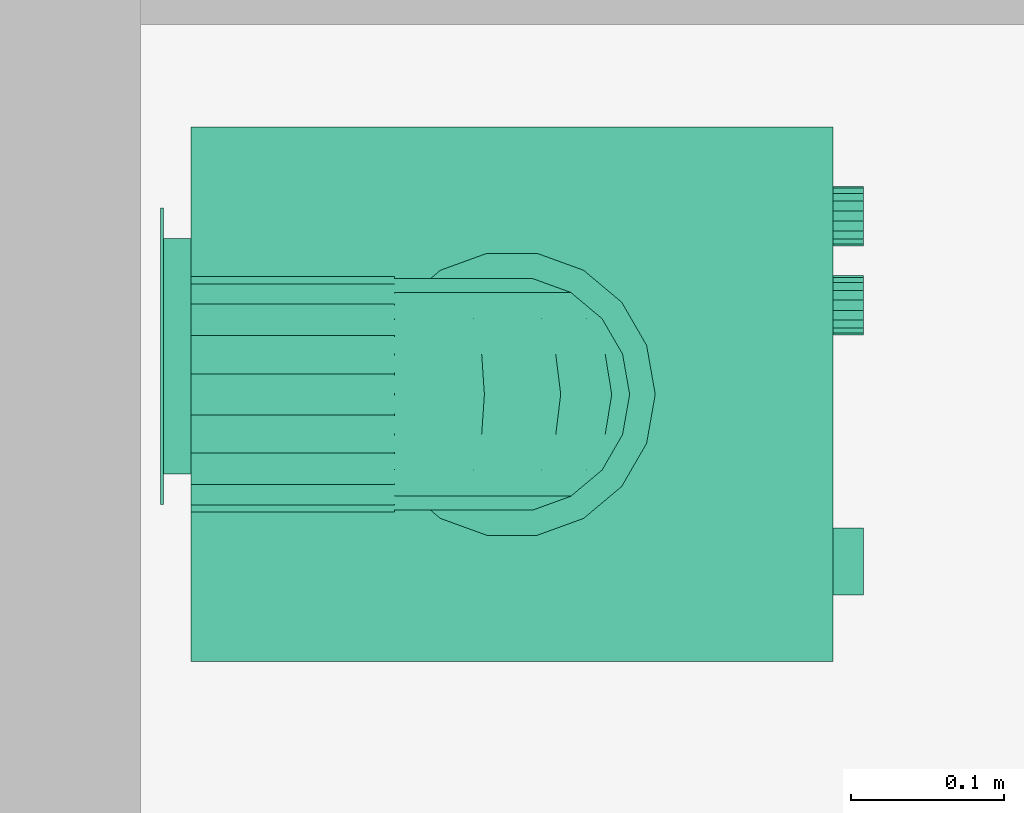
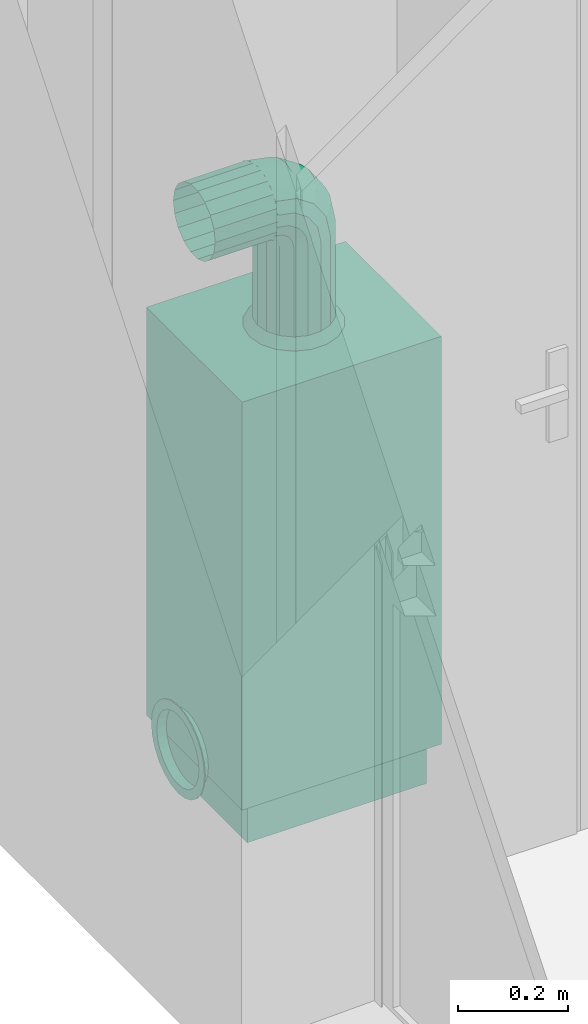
# One storey, part 107 of 164: 1 distribution element.
"""IFC2X3 building model written with IfcOpenShell, lengths in millimetres."""

from ifc_helpers import new_model, entity, si_unit, converted_unit, derived_unit, money_unit, direction, frame, origin_with_axes, place, context, subcontext, project, spatial, open_shell, faceted_brep, surface_model, source, transform, mapped, type_object, element, save


model = new_model("IFC2X3")

# Units and contexts
model_context = context("Model", 3, precision=0.01, world=origin_with_axes(), true_north=direction((0.0, 1.0)))
body_context = subcontext(model_context, "Body", "Model", "MODEL_VIEW")
ifc_project = project(units=[si_unit("LENGTHUNIT", "METRE", prefix="MILLI"), si_unit("AREAUNIT", "SQUARE_METRE"), si_unit("VOLUMEUNIT", "CUBIC_METRE"), converted_unit("PLANEANGLEUNIT", "DEGREE", entity("IfcPlaneAngleMeasure", 0.0174532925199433), si_unit("PLANEANGLEUNIT", "RADIAN"), dimensions=[0, 0, 0, 0, 0, 0, 0]), money_unit("USD"), converted_unit("TIMEUNIT", "Year", entity("IfcTimeMeasure", 31557600.0), si_unit("TIMEUNIT", "SECOND"), dimensions=[0, 0, 1, 0, 0, 0, 0]), si_unit("MASSUNIT", "GRAM", prefix="KILO"), si_unit("THERMODYNAMICTEMPERATUREUNIT", "DEGREE_CELSIUS"), si_unit("LUMINOUSINTENSITYUNIT", "LUMEN"), si_unit("ENERGYUNIT", "JOULE", prefix="MEGA"), derived_unit("THERMALCONDUCTANCEUNIT", [(si_unit("POWERUNIT", "WATT"), 1), (si_unit("LENGTHUNIT", "METRE"), -1), (si_unit("THERMODYNAMICTEMPERATUREUNIT", "KELVIN"), -1)]), derived_unit("SPECIFICHEATCAPACITYUNIT", [(si_unit("ENERGYUNIT", "JOULE"), 1), (si_unit("MASSUNIT", "GRAM", prefix="KILO"), -1), (si_unit("THERMODYNAMICTEMPERATUREUNIT", "KELVIN"), -1)]), derived_unit("MASSDENSITYUNIT", [(si_unit("MASSUNIT", "GRAM", prefix="KILO"), 1), (si_unit("VOLUMEUNIT", "CUBIC_METRE"), -1)])], contexts=[model_context])

# Site, building, storey
site_placement = place(None, origin_with_axes())
site = spatial("IfcSite", under=ifc_project, at=site_placement, Name="Site", CompositionType="ELEMENT")
building_placement = place(site_placement, origin_with_axes())
building = spatial("IfcBuilding", under=site, at=building_placement, Name="Bâtiment", CompositionType="ELEMENT")
storey_placement = place(building_placement, frame((0.0, 0.0, 5750.0), z_axis=(0.0, 0.0, 1.0), x_axis=(1.0, 0.0, 0.0)))
storey = spatial("IfcBuildingStorey", under=building, at=storey_placement, Name="Etage1", CompositionType="ELEMENT", Elevation=5750.0)

# Distribution element
distribution_element_type = type_object("IfcDistributionElementType", Name="Chaudière à gaz 27")
shared_shape = source(origin_with_axes(), body_context, "Body", "SurfaceModel", [
    surface_model("IfcShellBasedSurfaceModel", [(200.0, 420.0, 34.90909090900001), (180.0709335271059, 420.0, 37.53280228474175), (180.0709335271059, 438.0, 37.53280228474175), (200.0, 438.0, 34.90909090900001), (161.5, 420.0, 45.22513481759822), (161.5, 438.0, 45.22513481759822), (219.9290664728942, 420.0, 37.53280228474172), (219.9290664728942, 438.0, 37.53280228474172), (145.5527778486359, 420.0, 57.46186875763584), (145.5527778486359, 438.0, 57.46186875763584), (238.5000000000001, 420.0, 45.22513481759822), (238.5000000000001, 438.0, 45.22513481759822), (133.3160439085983, 420.0, 73.409090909), (133.3160439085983, 438.0, 73.409090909), (254.4472221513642, 420.0, 57.46186875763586), (254.4472221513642, 438.0, 57.46186875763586), (125.6237113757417, 420.0, 91.9800244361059), (125.6237113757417, 438.0, 91.9800244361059), (266.6839560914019, 420.0, 73.40909090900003), (266.6839560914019, 438.0, 73.40909090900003), (123.0, 420.0, 111.909090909), (123.0, 438.0, 111.909090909), (274.3762886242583, 420.0, 91.98002443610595), (274.3762886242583, 438.0, 91.98002443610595), (125.6237113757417, 420.0, 131.8381573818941), (125.6237113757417, 438.0, 131.8381573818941), (277.0, 420.0, 111.909090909), (277.0, 438.0, 111.909090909), (133.3160439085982, 420.0, 150.409090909), (133.3160439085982, 438.0, 150.409090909), (274.3762886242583, 420.0, 131.8381573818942), (274.3762886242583, 438.0, 131.8381573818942), (145.5527778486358, 420.0, 166.3563130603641), (145.5527778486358, 438.0, 166.3563130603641), (266.6839560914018, 420.0, 150.4090909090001), (266.6839560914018, 438.0, 150.4090909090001), (161.5, 420.0, 178.5930470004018), (161.5, 438.0, 178.5930470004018), (254.4472221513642, 420.0, 166.3563130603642), (254.4472221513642, 438.0, 166.3563130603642), (180.0709335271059, 420.0, 186.2853795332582), (180.0709335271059, 438.0, 186.2853795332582), (238.5, 420.0, 178.5930470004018), (238.5, 438.0, 178.5930470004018), (200.0, 420.0, 188.909090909), (200.0, 438.0, 188.909090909), (219.929066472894, 420.0, 186.2853795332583), (219.929066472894, 438.0, 186.2853795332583)], [open_shell([[[0, 1, 2, 3]], [[1, 4, 5, 2]], [[6, 0, 3, 7]], [[4, 8, 9, 5]], [[10, 6, 7, 11]], [[8, 12, 13, 9]], [[14, 10, 11, 15]], [[12, 16, 17, 13]], [[18, 14, 15, 19]], [[16, 20, 21, 17]], [[22, 18, 19, 23]], [[20, 24, 25, 21]], [[26, 22, 23, 27]], [[24, 28, 29, 25]], [[30, 26, 27, 31]], [[28, 32, 33, 29]], [[34, 30, 31, 35]], [[32, 36, 37, 33]], [[38, 34, 35, 39]], [[36, 40, 41, 37]], [[42, 38, 39, 43]], [[40, 44, 45, 41]], [[46, 42, 43, 47]], [[44, 46, 47, 45]]])]),
    faceted_brep([(200.0, 438.0, 14.909090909), (174.8945526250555, 438.0, 18.21428575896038), (174.8945526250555, 440.0, 18.21428575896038), (200.0, 440.0, 14.909090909), (225.1054473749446, 438.0, 18.21428575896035), (248.5000000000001, 438.0, 27.90462674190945), (268.5893577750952, 438.0, 43.31973313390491), (284.0044641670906, 438.0, 63.40909090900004), (293.6948051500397, 438.0, 86.80364353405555), (297.0000000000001, 438.0, 111.909090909), (293.6948051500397, 438.0, 137.0145382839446), (284.0044641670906, 438.0, 160.4090909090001), (268.5893577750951, 438.0, 180.4984486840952), (248.5, 438.0, 195.9135550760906), (225.1054473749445, 438.0, 205.6038960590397), (199.9999999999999, 438.0, 208.909090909), (174.8945526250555, 438.0, 205.6038960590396), (151.5, 438.0, 195.9135550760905), (131.4106422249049, 438.0, 180.4984486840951), (115.9955358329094, 438.0, 160.409090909), (106.3051948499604, 438.0, 137.0145382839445), (103.0, 438.0, 111.909090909), (106.3051948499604, 438.0, 86.80364353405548), (115.9955358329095, 438.0, 63.40909090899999), (131.4106422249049, 438.0, 43.31973313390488), (151.5, 438.0, 27.90462674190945), (200.0, 438.0, 34.90909090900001), (180.0709335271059, 438.0, 37.53280228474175), (161.5, 438.0, 45.22513481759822), (145.5527778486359, 438.0, 57.46186875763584), (133.3160439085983, 438.0, 73.409090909), (125.6237113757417, 438.0, 91.9800244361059), (123.0, 438.0, 111.909090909), (125.6237113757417, 438.0, 131.8381573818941), (133.3160439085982, 438.0, 150.409090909), (145.5527778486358, 438.0, 166.3563130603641), (161.5, 438.0, 178.5930470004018), (180.0709335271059, 438.0, 186.2853795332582), (200.0, 438.0, 188.909090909), (219.929066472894, 438.0, 186.2853795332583), (238.5, 438.0, 178.5930470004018), (254.4472221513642, 438.0, 166.3563130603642), (266.6839560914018, 438.0, 150.4090909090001), (274.3762886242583, 438.0, 131.8381573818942), (277.0, 438.0, 111.909090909), (274.3762886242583, 438.0, 91.98002443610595), (266.6839560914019, 438.0, 73.40909090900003), (254.4472221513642, 438.0, 57.46186875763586), (238.5000000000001, 438.0, 45.22513481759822), (219.9290664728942, 438.0, 37.53280228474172), (151.5, 440.0, 27.90462674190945), (131.4106422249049, 440.0, 43.31973313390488), (115.9955358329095, 440.0, 63.40909090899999), (106.3051948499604, 440.0, 86.80364353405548), (103.0, 440.0, 111.909090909), (106.3051948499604, 440.0, 137.0145382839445), (115.9955358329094, 440.0, 160.409090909), (131.4106422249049, 440.0, 180.4984486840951), (151.5, 440.0, 195.9135550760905), (174.8945526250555, 440.0, 205.6038960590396), (199.9999999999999, 440.0, 208.909090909), (225.1054473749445, 440.0, 205.6038960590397), (248.5, 440.0, 195.9135550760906), (268.5893577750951, 440.0, 180.4984486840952), (284.0044641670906, 440.0, 160.4090909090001), (293.6948051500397, 440.0, 137.0145382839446), (297.0000000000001, 440.0, 111.909090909), (293.6948051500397, 440.0, 86.80364353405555), (284.0044641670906, 440.0, 63.40909090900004), (268.5893577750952, 440.0, 43.31973313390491), (248.5000000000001, 440.0, 27.90462674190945), (225.1054473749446, 440.0, 18.21428575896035), (200.0, 440.0, 34.90909090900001), (219.9290664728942, 440.0, 37.53280228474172), (238.5000000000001, 440.0, 45.22513481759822), (254.4472221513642, 440.0, 57.46186875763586), (266.6839560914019, 440.0, 73.40909090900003), (274.3762886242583, 440.0, 91.98002443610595), (277.0, 440.0, 111.909090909), (274.3762886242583, 440.0, 131.8381573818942), (266.6839560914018, 440.0, 150.4090909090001), (254.4472221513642, 440.0, 166.3563130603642), (238.5, 440.0, 178.5930470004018), (219.929066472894, 440.0, 186.2853795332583), (200.0, 440.0, 188.909090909), (180.0709335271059, 440.0, 186.2853795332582), (161.5, 440.0, 178.5930470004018), (145.5527778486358, 440.0, 166.3563130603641), (133.3160439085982, 440.0, 150.409090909), (125.6237113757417, 440.0, 131.8381573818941), (123.0, 440.0, 111.909090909), (125.6237113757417, 440.0, 91.9800244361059), (133.3160439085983, 440.0, 73.409090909), (145.5527778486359, 440.0, 57.46186875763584), (161.5, 440.0, 45.22513481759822), (180.0709335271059, 440.0, 37.53280228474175)], [[[0, 1, 2, 3]], [[0, 4, 5, 6, 7, 8, 9, 10, 11, 12, 13, 14, 15, 16, 17, 18, 19, 20, 21, 22, 23, 24, 25, 1], [26, 27, 28, 29, 30, 31, 32, 33, 34, 35, 36, 37, 38, 39, 40, 41, 42, 43, 44, 45, 46, 47, 48, 49]], [[1, 25, 50, 2]], [[3, 2, 50, 51, 52, 53, 54, 55, 56, 57, 58, 59, 60, 61, 62, 63, 64, 65, 66, 67, 68, 69, 70, 71], [72, 73, 74, 75, 76, 77, 78, 79, 80, 81, 82, 83, 84, 85, 86, 87, 88, 89, 90, 91, 92, 93, 94, 95]], [[4, 0, 3, 71]], [[5, 4, 71, 70]], [[6, 5, 70, 69]], [[7, 6, 69, 68]], [[8, 7, 68, 67]], [[9, 8, 67, 66]], [[10, 9, 66, 65]], [[11, 10, 65, 64]], [[12, 11, 64, 63]], [[13, 12, 63, 62]], [[14, 13, 62, 61]], [[15, 14, 61, 60]], [[16, 15, 60, 59]], [[17, 16, 59, 58]], [[18, 17, 58, 57]], [[19, 18, 57, 56]], [[20, 19, 56, 55]], [[21, 20, 55, 54]], [[22, 21, 54, 53]], [[23, 22, 53, 52]], [[24, 23, 52, 51]], [[25, 24, 51, 50]], [[27, 26, 72, 95]], [[28, 27, 95, 94]], [[29, 28, 94, 93]], [[30, 29, 93, 92]], [[31, 30, 92, 91]], [[32, 31, 91, 90]], [[33, 32, 90, 89]], [[34, 33, 89, 88]], [[35, 34, 88, 87]], [[36, 35, 87, 86]], [[37, 36, 86, 85]], [[38, 37, 85, 84]], [[39, 38, 84, 83]], [[40, 39, 83, 82]], [[41, 40, 82, 81]], [[42, 41, 81, 80]], [[43, 42, 80, 79]], [[44, 43, 79, 78]], [[45, 44, 78, 77]], [[46, 45, 77, 76]], [[47, 46, 76, 75]], [[48, 47, 75, 74]], [[49, 48, 74, 73]], [[26, 49, 73, 72]]]),
    faceted_brep([(332.5, 21.0, 0.0), (17.5, 21.0, 0.0), (17.5, 399.0, 0.0), (332.5, 399.0, 0.0), (332.5, 21.0, 90.9090909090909), (17.5, 21.0, 90.9090909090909), (17.5, 399.0, 90.9090909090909), (332.5, 399.0, 90.9090909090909)], [[[0, 1, 2, 3]], [[1, 0, 4, 5]], [[2, 1, 5, 6]], [[3, 2, 6, 7]], [[0, 3, 7, 4]], [[5, 4, 7, 6]]]),
    faceted_brep([(0.0, 420.0, 90.9090909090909), (0.0, 420.0, 1000.0), (349.9999999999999, 420.0, 1000.0), (350.0, 420.0, 90.90909090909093), (0.0, 0.0, 90.9090909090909), (0.0, 0.0, 818.1818181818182), (0.0, 21.0, 818.1818181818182), (0.0, 21.0, 1000.0), (349.9999999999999, 21.0, 1000.0), (349.9999999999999, 21.0, 818.1818181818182), (349.9999999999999, 0.0, 818.1818181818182), (350.0, 0.0, 90.90909090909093)], [[[0, 1, 2, 3]], [[0, 4, 5, 6, 7, 1]], [[1, 7, 8, 2]], [[3, 2, 8, 9, 10, 11]], [[4, 0, 3, 11]], [[5, 4, 11, 10]], [[6, 5, 10, 9]], [[7, 6, 9, 8]]]),
    faceted_brep([(350.0, 0.0, 818.1818181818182), (0.0, 0.0, 818.1818181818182), (0.0, 21.0, 818.1818181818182), (350.0, 21.0, 818.1818181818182), (350.0, 0.0, 1000.0), (0.0, 0.0, 1000.0), (0.0, 21.0, 1000.0), (350.0, 21.0, 1000.0)], [[[0, 1, 2, 3]], [[1, 0, 4, 5]], [[2, 1, 5, 6]], [[3, 2, 6, 7]], [[0, 3, 7, 4]], [[5, 4, 7, 6]]]),
    faceted_brep([(251.6051342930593, 0.0, 902.4405174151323), (248.2286419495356, 0.0, 896.592261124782), (243.0555555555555, 0.0, 892.2515262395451), (236.709825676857, 0.0, 889.9418694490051), (229.9568409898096, 0.0, 889.9418694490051), (223.6111111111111, 0.0, 892.2515262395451), (218.438024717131, 0.0, 896.5922611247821), (215.0615323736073, 0.0, 902.4405174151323), (213.8888888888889, 0.0, 909.0909090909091), (215.0615323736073, 0.0, 915.741300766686), (218.438024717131, 0.0, 921.5895570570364), (223.6111111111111, 0.0, 925.9302919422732), (229.9568409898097, 0.0, 928.2399487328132), (236.709825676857, 0.0, 928.2399487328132), (243.0555555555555, 0.0, 925.9302919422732), (248.2286419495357, 0.0, 921.5895570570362), (251.6051342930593, 0.0, 915.741300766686), (252.7777777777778, 0.0, 909.0909090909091), (251.6051342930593, -19.99999999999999, 902.4405174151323), (248.2286419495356, -19.99999999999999, 896.592261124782), (243.0555555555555, -19.99999999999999, 892.2515262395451), (236.709825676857, -19.99999999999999, 889.9418694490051), (229.9568409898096, -19.99999999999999, 889.9418694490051), (223.6111111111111, -19.99999999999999, 892.2515262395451), (218.438024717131, -19.99999999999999, 896.5922611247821), (215.0615323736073, -19.99999999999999, 902.4405174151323), (213.8888888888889, -19.99999999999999, 909.0909090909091), (215.0615323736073, -19.99999999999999, 915.741300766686), (218.438024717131, -19.99999999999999, 921.5895570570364), (223.6111111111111, -19.99999999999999, 925.9302919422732), (229.9568409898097, -19.99999999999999, 928.2399487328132), (236.709825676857, -19.99999999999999, 928.2399487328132), (243.0555555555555, -19.99999999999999, 925.9302919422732), (248.2286419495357, -19.99999999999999, 921.5895570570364), (251.6051342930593, -19.99999999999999, 915.741300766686), (252.7777777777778, -19.99999999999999, 909.0909090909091)], [[[0, 1, 2, 3, 4, 5, 6, 7, 8, 9, 10, 11, 12, 13, 14, 15, 16, 17]], [[1, 0, 18, 19]], [[2, 1, 19, 20]], [[3, 2, 20, 21]], [[4, 3, 21, 22]], [[5, 4, 22, 23]], [[6, 5, 23, 24]], [[7, 6, 24, 25]], [[8, 7, 25, 26]], [[9, 8, 26, 27]], [[10, 9, 27, 28]], [[11, 10, 28, 29]], [[12, 11, 29, 30]], [[13, 12, 30, 31]], [[14, 13, 31, 32]], [[15, 14, 32, 33]], [[16, 15, 33, 34]], [[17, 16, 34, 35]], [[0, 17, 35, 18]], [[18, 35, 34, 33, 32, 31, 30, 29, 28, 27, 26, 25, 24, 23, 22, 21, 20, 19]]]),
    faceted_brep([(309.9384676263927, 0.0, 902.4405174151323), (306.561975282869, 0.0, 896.592261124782), (301.3888888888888, 0.0, 892.2515262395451), (295.0431590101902, 0.0, 889.9418694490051), (288.290174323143, 0.0, 889.9418694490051), (281.9444444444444, 0.0, 892.2515262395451), (276.7713580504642, 0.0, 896.5922611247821), (273.3948657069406, 0.0, 902.4405174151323), (272.2222222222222, 0.0, 909.0909090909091), (273.3948657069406, 0.0, 915.741300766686), (276.7713580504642, 0.0, 921.5895570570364), (281.9444444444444, 0.0, 925.9302919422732), (288.290174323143, 0.0, 928.2399487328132), (295.0431590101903, 0.0, 928.2399487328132), (301.3888888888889, 0.0, 925.9302919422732), (306.561975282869, 0.0, 921.5895570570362), (309.9384676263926, 0.0, 915.741300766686), (311.1111111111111, 0.0, 909.0909090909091), (309.9384676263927, -19.99999999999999, 902.4405174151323), (306.561975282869, -19.99999999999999, 896.592261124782), (301.3888888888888, -19.99999999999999, 892.2515262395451), (295.0431590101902, -19.99999999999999, 889.9418694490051), (288.290174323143, -19.99999999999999, 889.9418694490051), (281.9444444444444, -19.99999999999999, 892.2515262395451), (276.7713580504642, -19.99999999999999, 896.5922611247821), (273.3948657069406, -19.99999999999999, 902.4405174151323), (272.2222222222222, -19.99999999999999, 909.0909090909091), (273.3948657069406, -19.99999999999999, 915.741300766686), (276.7713580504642, -19.99999999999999, 921.5895570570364), (281.9444444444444, -19.99999999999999, 925.9302919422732), (288.290174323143, -19.99999999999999, 928.2399487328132), (295.0431590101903, -19.99999999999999, 928.2399487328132), (301.3888888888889, -19.99999999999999, 925.9302919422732), (306.561975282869, -19.99999999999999, 921.5895570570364), (309.9384676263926, -19.99999999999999, 915.741300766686), (311.1111111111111, -19.99999999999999, 909.0909090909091)], [[[0, 1, 2, 3, 4, 5, 6, 7, 8, 9, 10, 11, 12, 13, 14, 15, 16, 17]], [[1, 0, 18, 19]], [[2, 1, 19, 20]], [[3, 2, 20, 21]], [[4, 3, 21, 22]], [[5, 4, 22, 23]], [[6, 5, 23, 24]], [[7, 6, 24, 25]], [[8, 7, 25, 26]], [[9, 8, 26, 27]], [[10, 9, 27, 28]], [[11, 10, 28, 29]], [[12, 11, 29, 30]], [[13, 12, 30, 31]], [[14, 13, 31, 32]], [[15, 14, 32, 33]], [[16, 15, 33, 34]], [[17, 16, 34, 35]], [[0, 17, 35, 18]], [[18, 35, 34, 33, 32, 31, 30, 29, 28, 27, 26, 25, 24, 23, 22, 21, 20, 19]]]),
    faceted_brep([(87.5, 0.0, 878.7878787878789), (43.75, 0.0, 878.7878787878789), (43.75, 0.0, 939.3939393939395), (87.5, 0.0, 939.3939393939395), (87.5, -20.0, 878.7878787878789), (43.75, -20.0, 878.7878787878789), (43.75, -19.99999999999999, 939.3939393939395), (87.5, -19.99999999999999, 939.3939393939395)], [[[0, 1, 2, 3]], [[1, 0, 4, 5]], [[2, 1, 5, 6]], [[3, 2, 6, 7]], [[0, 3, 7, 4]], [[5, 4, 7, 6]]]),
    surface_model("IfcShellBasedSurfaceModel", [(148.6644489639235, 282.356331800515, 1220.0), (175.0, 287.0, 1220.0), (175.0, 287.0, 1020.0), (148.6644489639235, 282.356331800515, 1020.0), (201.3355510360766, 282.356331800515, 1220.0), (201.3355510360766, 282.356331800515, 1020.0), (175.0, 303.7499999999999, 1000.0), (142.9356115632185, 298.0961831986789, 1000.0), (125.5053540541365, 268.9854221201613, 1220.0), (125.5053540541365, 268.9854221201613, 1020.0), (224.4946459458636, 268.9854221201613, 1220.0), (224.4946459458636, 268.9854221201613, 1020.0), (207.0643884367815, 298.0961831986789, 1000.0), (114.7386615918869, 281.8166665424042, 1000.0), (108.3160439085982, 248.5, 1220.0), (108.3160439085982, 248.5, 1020.0), (241.6839560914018, 248.4999999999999, 1220.0), (241.6839560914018, 248.4999999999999, 1020.0), (235.2613384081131, 281.8166665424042, 1000.0), (93.81011839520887, 256.8749999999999, 1000.0), (99.16980301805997, 223.3709096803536, 1220.0), (99.16980301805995, 223.3709096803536, 1020.0), (250.8301969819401, 223.3709096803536, 1220.0), (250.83019698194, 223.3709096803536, 1020.0), (256.1898816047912, 256.8749999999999, 1000.0), (82.6742731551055, 226.2795166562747, 1000.0), (99.16980301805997, 196.6290903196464, 1220.0), (99.16980301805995, 196.6290903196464, 1020.0), (250.83019698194, 196.6290903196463, 1220.0), (250.83019698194, 196.6290903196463, 1020.0), (267.3257268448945, 226.2795166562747, 1000.0), (82.67427315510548, 193.7204833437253, 1000.0), (108.3160439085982, 171.5, 1220.0), (108.3160439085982, 171.5, 1020.0), (241.6839560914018, 171.4999999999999, 1220.0), (241.6839560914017, 171.4999999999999, 1020.0), (267.3257268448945, 193.7204833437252, 1000.0), (93.81011839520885, 163.125, 1000.0), (125.5053540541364, 151.0145778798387, 1220.0), (125.5053540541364, 151.0145778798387, 1020.0), (224.4946459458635, 151.0145778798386, 1220.0), (224.4946459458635, 151.0145778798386, 1020.0), (256.1898816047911, 163.1249999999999, 1000.0), (114.7386615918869, 138.1833334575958, 1000.0), (148.6644489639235, 137.643668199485, 1220.0), (148.6644489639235, 137.643668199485, 1020.0), (201.3355510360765, 137.643668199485, 1220.0), (201.3355510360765, 137.643668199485, 1020.0), (235.261338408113, 138.1833334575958, 1000.0), (142.9356115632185, 121.9038168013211, 1000.0), (175.0, 133.0, 1220.0), (175.0, 133.0, 1020.0), (207.0643884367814, 121.9038168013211, 1000.0), (175.0, 116.25, 1000.0)], [open_shell([[[0, 1, 2, 3]], [[1, 4, 5, 2]], [[3, 2, 6, 7]], [[8, 0, 3, 9]], [[4, 10, 11, 5]], [[2, 5, 12, 6]], [[9, 3, 7, 13]], [[14, 8, 9, 15]], [[10, 16, 17, 11]], [[5, 11, 18, 12]], [[15, 9, 13, 19]], [[20, 14, 15, 21]], [[16, 22, 23, 17]], [[11, 17, 24, 18]], [[21, 15, 19, 25]], [[26, 20, 21, 27]], [[22, 28, 29, 23]], [[17, 23, 30, 24]], [[27, 21, 25, 31]], [[32, 26, 27, 33]], [[28, 34, 35, 29]], [[23, 29, 36, 30]], [[33, 27, 31, 37]], [[38, 32, 33, 39]], [[34, 40, 41, 35]], [[29, 35, 42, 36]], [[39, 33, 37, 43]], [[44, 38, 39, 45]], [[40, 46, 47, 41]], [[35, 41, 48, 42]], [[45, 39, 43, 49]], [[50, 44, 45, 51]], [[46, 50, 51, 47]], [[41, 47, 52, 48]], [[51, 45, 49, 53]], [[47, 51, 53, 52]]])]),
    faceted_brep([(99.16980301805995, 203.5081662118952, 1254.583449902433), (99.16980301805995, 196.6290903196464, 1220.0), (108.3160439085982, 171.5, 1220.0), (108.3160439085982, 180.2919139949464, 1264.199936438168), (99.16980301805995, 228.2143857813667, 1244.349798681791), (99.16980301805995, 223.3709096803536, 1220.0), (108.3160439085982, 248.5, 1220.0), (125.5053540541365, 268.9854221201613, 1220.0), (148.6644489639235, 282.356331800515, 1220.0), (175.0, 287.0, 1220.0), (201.3355510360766, 282.356331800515, 1220.0), (224.4946459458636, 268.9854221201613, 1220.0), (241.6839560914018, 248.4999999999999, 1220.0), (250.83019698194, 223.3709096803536, 1220.0), (250.83019698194, 196.6290903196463, 1220.0), (241.6839560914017, 171.4999999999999, 1220.0), (224.4946459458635, 151.0145778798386, 1220.0), (201.3355510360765, 137.643668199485, 1220.0), (175.0, 132.9999999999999, 1220.0), (148.6644489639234, 137.643668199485, 1220.0), (125.5053540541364, 151.0145778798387, 1220.0), (125.5053540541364, 161.3658517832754, 1272.039368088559), (99.16980301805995, 223.098116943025, 1283.901883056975), (108.3160439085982, 205.3291667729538, 1301.670833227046), (99.16980301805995, 242.0074387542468, 1264.992561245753), (108.3160439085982, 251.4306379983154, 1234.733312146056), (125.5053540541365, 270.3567002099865, 1226.893880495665), (148.6644489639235, 282.7098099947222, 1221.777054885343), (201.3355510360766, 282.7098099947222, 1221.777054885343), (224.4946459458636, 270.3567002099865, 1226.893880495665), (241.6839560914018, 251.4306379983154, 1234.733312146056), (250.83019698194, 228.2143857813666, 1244.349798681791), (250.83019698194, 203.5081662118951, 1254.583449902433), (241.6839560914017, 180.2919139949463, 1264.199936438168), (224.4946459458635, 161.3658517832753, 1272.039368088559), (201.3355510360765, 149.0127419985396, 1277.15619369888), (175.0, 144.7225519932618, 1278.933248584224), (148.6644489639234, 149.0127419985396, 1277.15619369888), (125.5053540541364, 190.8437858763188, 1316.156214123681), (108.3160439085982, 242.8000635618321, 1326.708086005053), (99.16980301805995, 252.4165500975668, 1303.491833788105), (99.16980301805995, 262.6502013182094, 1278.785614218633), (108.3160439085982, 259.7763889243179, 1247.223611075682), (125.5053540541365, 274.2617698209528, 1232.738230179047), (148.6644489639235, 283.7164307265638, 1223.283569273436), (201.3355510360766, 283.7164307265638, 1223.283569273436), (224.4946459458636, 274.2617698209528, 1232.738230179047), (241.6839560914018, 259.7763889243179, 1247.223611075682), (250.83019698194, 242.0074387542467, 1264.992561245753), (250.83019698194, 223.0981169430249, 1283.901883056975), (241.6839560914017, 205.3291667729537, 1301.670833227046), (224.4946459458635, 190.8437858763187, 1316.156214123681), (201.3355510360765, 181.3891249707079, 1325.610875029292), (175.0, 178.1055556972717, 1328.894444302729), (148.6644489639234, 181.3891249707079, 1325.610875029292), (125.5053540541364, 234.9606319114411, 1345.634148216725), (108.3160439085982, 287.0000000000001, 1335.5), (99.16980301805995, 287.0000000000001, 1310.370909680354), (99.16980301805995, 287.0000000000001, 1283.629090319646), (108.3160439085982, 272.266687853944, 1255.569362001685), (125.5053540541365, 280.1061195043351, 1236.643299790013), (148.6644489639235, 285.2229451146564, 1224.290190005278), (201.3355510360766, 285.2229451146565, 1224.290190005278), (224.4946459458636, 280.1061195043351, 1236.643299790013), (241.6839560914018, 272.266687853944, 1255.569362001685), (250.83019698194, 262.6502013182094, 1278.785614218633), (250.83019698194, 252.4165500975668, 1303.491833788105), (241.6839560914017, 242.8000635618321, 1326.708086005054), (224.4946459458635, 234.9606319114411, 1345.634148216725), (201.3355510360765, 229.8438063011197, 1357.98725800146), (175.0, 228.0667514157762, 1362.277448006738), (148.6644489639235, 229.8438063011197, 1357.98725800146), (125.5053540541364, 287.0000000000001, 1355.985422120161), (108.3160439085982, 287.0, 1258.5), (148.6644489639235, 287.0000000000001, 1369.356331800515), (175.0, 287.0000000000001, 1374.0), (201.3355510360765, 287.0000000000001, 1369.356331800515), (224.4946459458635, 287.0000000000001, 1355.985422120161), (241.6839560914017, 287.0000000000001, 1335.5), (250.83019698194, 287.0000000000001, 1310.370909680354), (250.83019698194, 287.0000000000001, 1283.629090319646), (241.6839560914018, 287.0, 1258.5), (224.4946459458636, 287.0, 1238.014577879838), (201.3355510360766, 287.0, 1224.643668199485), (148.6644489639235, 287.0, 1224.643668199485), (125.5053540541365, 287.0, 1238.014577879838)], [[[0, 1, 2, 3]], [[1, 0, 4, 5]], [[2, 1, 5, 6, 7, 8, 9, 10, 11, 12, 13, 14, 15, 16, 17, 18, 19, 20]], [[3, 2, 20, 21]], [[22, 0, 3, 23]], [[0, 22, 24, 4]], [[6, 5, 4, 25]], [[26, 7, 6, 25]], [[7, 26, 27, 8]], [[8, 27, 9]], [[28, 10, 9]], [[10, 28, 29, 11]], [[11, 29, 30, 12]], [[31, 13, 12, 30]], [[14, 13, 31, 32]], [[33, 15, 14, 32]], [[15, 33, 34, 16]], [[35, 17, 16, 34]], [[36, 18, 17, 35]], [[19, 18, 36, 37]], [[21, 20, 19, 37]], [[23, 3, 21, 38]], [[22, 23, 39, 40]], [[24, 22, 40, 41]], [[4, 24, 42, 25]], [[43, 26, 25, 42]], [[26, 43, 44, 27]], [[27, 44, 9]], [[45, 28, 9]], [[28, 45, 46, 29]], [[29, 46, 47, 30]], [[31, 30, 47, 48]], [[49, 32, 31, 48]], [[32, 49, 50, 33]], [[51, 34, 33, 50]], [[35, 34, 51, 52]], [[53, 36, 35, 52]], [[54, 37, 36, 53]], [[38, 21, 37, 54]], [[39, 23, 38, 55]], [[40, 39, 56, 57]], [[41, 40, 57, 58]], [[59, 42, 24, 41]], [[42, 59, 60, 43]], [[43, 60, 61, 44]], [[44, 61, 9]], [[62, 45, 9]], [[45, 62, 63, 46]], [[46, 63, 64, 47]], [[65, 48, 47, 64]], [[66, 49, 48, 65]], [[50, 49, 66, 67]], [[68, 51, 50, 67]], [[52, 51, 68, 69]], [[53, 52, 69, 70]], [[71, 54, 53, 70]], [[55, 38, 54, 71]], [[56, 39, 55, 72]], [[73, 58, 57, 56, 72, 74, 75, 76, 77, 78, 79, 80, 81, 82, 83, 9, 84, 85]], [[59, 41, 58, 73]], [[59, 73, 85, 60]], [[60, 85, 84, 61]], [[61, 84, 9]], [[62, 9, 83]], [[63, 62, 83, 82]], [[63, 82, 81, 64]], [[65, 64, 81, 80]], [[66, 65, 80, 79]], [[67, 66, 79, 78]], [[77, 68, 67, 78]], [[68, 77, 76, 69]], [[70, 69, 76, 75]], [[74, 71, 70, 75]], [[72, 55, 71, 74]]]),
    surface_model("IfcShellBasedSurfaceModel", [(102.6436681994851, 420.0, 1323.335551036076), (98.0, 420.0, 1297.0), (97.99999999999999, 287.0, 1297.0), (102.643668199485, 287.0, 1323.335551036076), (102.643668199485, 420.0, 1270.664448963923), (102.643668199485, 287.0, 1270.664448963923), (116.0145778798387, 420.0, 1346.494645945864), (116.0145778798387, 287.0, 1346.494645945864), (116.0145778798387, 420.0, 1247.505354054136), (116.0145778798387, 287.0, 1247.505354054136), (136.5, 420.0, 1363.683956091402), (136.5, 287.0, 1363.683956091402), (136.5, 420.0, 1230.316043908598), (136.5, 287.0, 1230.316043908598), (161.6290903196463, 420.0, 1372.83019698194), (161.6290903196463, 287.0, 1372.83019698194), (161.6290903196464, 420.0, 1221.16980301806), (161.6290903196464, 287.0, 1221.16980301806), (188.3709096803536, 420.0, 1372.83019698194), (188.3709096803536, 287.0, 1372.83019698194), (188.3709096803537, 420.0, 1221.16980301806), (188.3709096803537, 287.0, 1221.16980301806), (213.5, 420.0, 1363.683956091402), (213.5, 287.0, 1363.683956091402), (213.5000000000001, 420.0, 1230.316043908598), (213.5, 287.0, 1230.316043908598), (233.9854221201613, 420.0, 1346.494645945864), (233.9854221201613, 287.0, 1346.494645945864), (233.9854221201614, 420.0, 1247.505354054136), (233.9854221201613, 287.0, 1247.505354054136), (247.356331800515, 420.0, 1323.335551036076), (247.3563318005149, 287.0, 1323.335551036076), (247.356331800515, 420.0, 1270.664448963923), (247.356331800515, 287.0, 1270.664448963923), (252.0, 420.0, 1297.0), (252.0, 287.0, 1297.0)], [open_shell([[[0, 1, 2, 3]], [[1, 4, 5, 2]], [[6, 0, 3, 7]], [[4, 8, 9, 5]], [[10, 6, 7, 11]], [[8, 12, 13, 9]], [[14, 10, 11, 15]], [[12, 16, 17, 13]], [[18, 14, 15, 19]], [[16, 20, 21, 17]], [[22, 18, 19, 23]], [[20, 24, 25, 21]], [[26, 22, 23, 27]], [[24, 28, 29, 25]], [[30, 26, 27, 31]], [[28, 32, 33, 29]], [[34, 30, 31, 35]], [[32, 34, 35, 33]]])]),
])
distribution_element_placement = place(storey_placement, frame((2217427.273703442, -652829.875142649, 0.0), z_axis=(0.0, 0.0, 1.0), x_axis=(0.0, 1.0, 0.0)))
element("IfcDistributionElement", 1, at=distribution_element_placement, inside=storey, type_object=distribution_element_type, Name="Obj.-003", context=body_context, shape_type="MappedRepresentation", body=[
    mapped(shared_shape, transform((0.0, 0.0, 0.0))),
])

save(model, "model.ifc")
